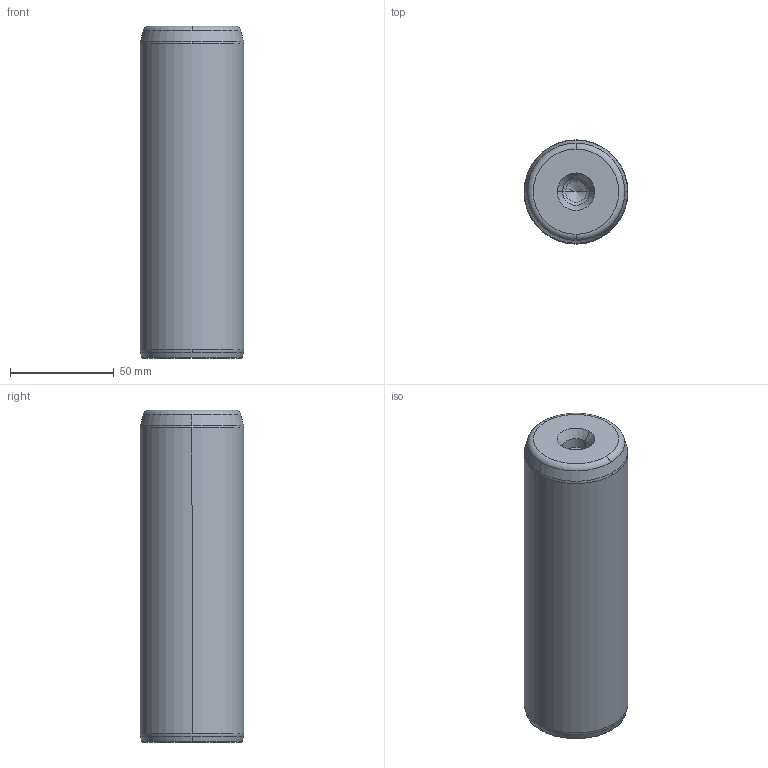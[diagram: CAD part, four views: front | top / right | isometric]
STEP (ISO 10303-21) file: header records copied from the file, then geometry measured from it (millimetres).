
FILE_DESCRIPTION((''),'2;1');
FILE_NAME('P10_050_160.stp','2008-12-23T16:12:52',(''),(''),'Mechanical Desktop 2009','Mechanical Desktop 2009',', , ');
FILE_SCHEMA(('CONFIG_CONTROL_DESIGN'));
Length unit declared in the file: millimetre
Products named in the file (5): Product; ProductAA; blmdl1; ProductA; blmdl1A
Assembly tree (2 placements, depth 3):
  Product
    ProductAA
      blmdl1
  ProductA
  blmdl1A
Bounding box: 50 x 50 x 160 mm (x, y, z)
Volume: 308522 mm3; surface area: 29695.9 mm2
Topology: 1 solids, 1 shells, 26 faces, 66 edges, 41 vertices
Faces by surface type: cone 10, torus 8, cylinder 6, plane 2
Entity records: 1012 total; most frequent: DIRECTION 170, CARTESIAN_POINT 134, ORIENTED_EDGE 128, AXIS2_PLACEMENT_3D 77, EDGE_CURVE 64, CIRCLE 48, VERTEX_POINT 41, EDGE_LOOP 27
